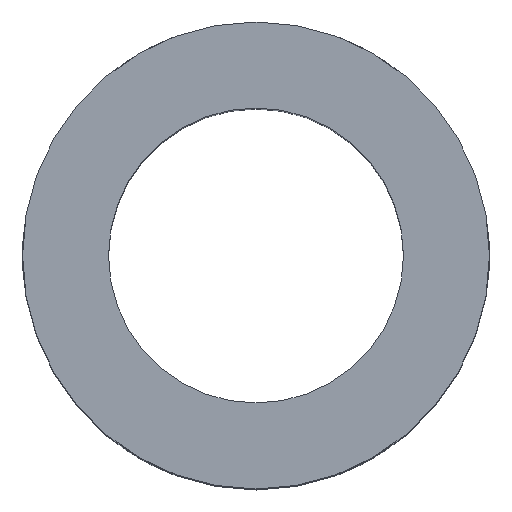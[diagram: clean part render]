
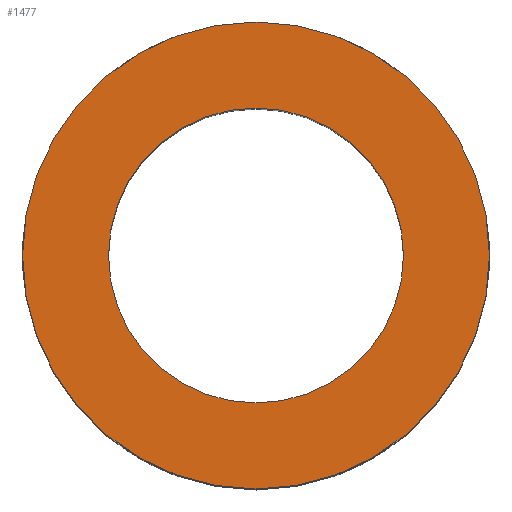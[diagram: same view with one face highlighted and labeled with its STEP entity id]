
A CAD part, top view. The second image highlights one B-rep face of the part: STEP entity #1477.
In plain terms, the highlighted planar face has unit normal (0, 0, 1).
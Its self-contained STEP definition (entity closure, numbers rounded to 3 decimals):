
#51=CARTESIAN_POINT('',(-30.163,0.,75.8));
#52=VERTEX_POINT('',#51);
#68=CARTESIAN_POINT('',(30.163,0.,75.8));
#69=VERTEX_POINT('',#68);
#76=CARTESIAN_POINT('',(0.0,0.0,75.8));
#77=DIRECTION('',(0.0,0.0,-1.0));
#78=DIRECTION('',(-1.0,0.0,0.0));
#79=AXIS2_PLACEMENT_3D('',#76,#77,#78);
#80=CIRCLE('',#79,30.163);
#81=EDGE_CURVE('',#69,#52,#80,.T.);
#91=CARTESIAN_POINT('',(-19.05,0.,75.8));
#92=VERTEX_POINT('',#91);
#101=CARTESIAN_POINT('',(19.05,0.,75.8));
#102=VERTEX_POINT('',#101);
#103=CARTESIAN_POINT('',(0.0,0.0,75.8));
#104=DIRECTION('',(0.0,0.0,-1.0));
#105=DIRECTION('',(-1.0,0.0,0.0));
#106=AXIS2_PLACEMENT_3D('',#103,#104,#105);
#107=CIRCLE('',#106,19.05);
#108=EDGE_CURVE('',#102,#92,#107,.T.);
#1436=CARTESIAN_POINT('',(0.0,0.0,75.8));
#1437=DIRECTION('',(0.0,0.0,-1.0));
#1438=DIRECTION('',(-1.0,0.0,0.0));
#1439=AXIS2_PLACEMENT_3D('',#1436,#1437,#1438);
#1440=CIRCLE('',#1439,19.05);
#1441=EDGE_CURVE('',#92,#102,#1440,.T.);
#1452=CARTESIAN_POINT('',(0.0,0.0,75.8));
#1453=DIRECTION('',(0.0,0.0,-1.0));
#1454=DIRECTION('',(-1.0,0.0,0.0));
#1455=AXIS2_PLACEMENT_3D('',#1452,#1453,#1454);
#1456=CIRCLE('',#1455,30.163);
#1457=EDGE_CURVE('',#52,#69,#1456,.T.);
#1464=CARTESIAN_POINT('',(0.0,0.0,75.8));
#1465=DIRECTION('',(0.0,0.0,-1.0));
#1466=DIRECTION('',(-1.0,0.0,0.0));
#1467=AXIS2_PLACEMENT_3D('',#1464,#1465,#1466);
#1468=PLANE('',#1467);
#1469=ORIENTED_EDGE('',*,*,#81,.F.);
#1470=ORIENTED_EDGE('',*,*,#1457,.F.);
#1471=EDGE_LOOP('',(#1469,#1470));
#1472=FACE_OUTER_BOUND('',#1471,.T.);
#1473=ORIENTED_EDGE('',*,*,#108,.T.);
#1474=ORIENTED_EDGE('',*,*,#1441,.T.);
#1475=EDGE_LOOP('',(#1473,#1474));
#1476=FACE_BOUND('',#1475,.T.);
#1477=ADVANCED_FACE('',(#1472,#1476),#1468,.F.);
